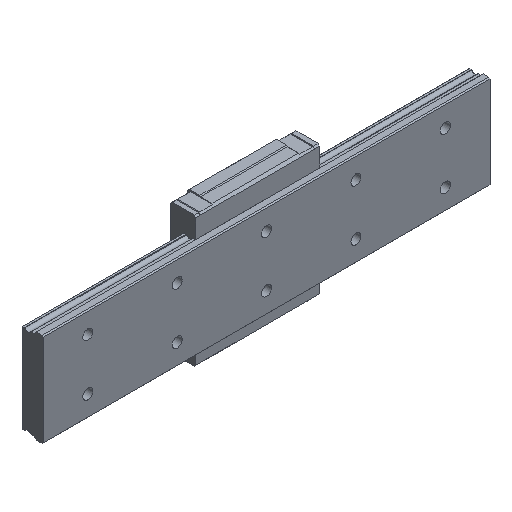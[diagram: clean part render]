
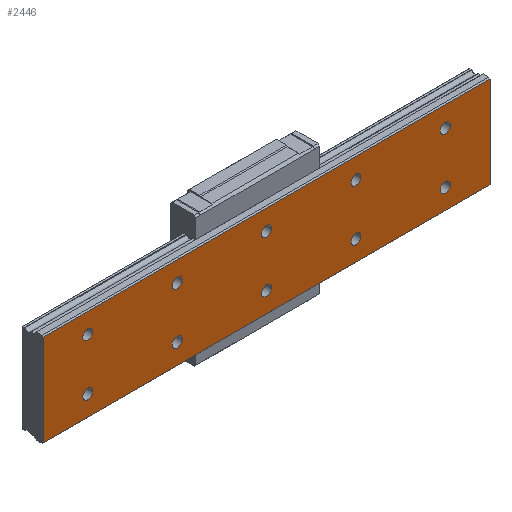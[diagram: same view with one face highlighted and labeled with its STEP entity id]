
A CAD part, isometric view. The second image highlights one B-rep face of the part: STEP entity #2446.
In plain terms, the highlighted planar face has unit normal (0, -1, 0).
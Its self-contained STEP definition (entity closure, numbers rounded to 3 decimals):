
#92=CIRCLE('',#2631,2.25);
#93=CIRCLE('',#2632,2.25);
#94=CIRCLE('',#2633,2.25);
#95=CIRCLE('',#2634,2.25);
#96=CIRCLE('',#2635,2.25);
#97=CIRCLE('',#2636,2.25);
#98=CIRCLE('',#2637,2.25);
#99=CIRCLE('',#2638,2.25);
#100=CIRCLE('',#2639,2.25);
#101=CIRCLE('',#2640,2.25);
#194=ORIENTED_EDGE('',*,*,#856,.F.);
#195=ORIENTED_EDGE('',*,*,#857,.F.);
#196=ORIENTED_EDGE('',*,*,#858,.F.);
#197=ORIENTED_EDGE('',*,*,#859,.F.);
#198=ORIENTED_EDGE('',*,*,#860,.F.);
#199=ORIENTED_EDGE('',*,*,#861,.F.);
#200=ORIENTED_EDGE('',*,*,#862,.F.);
#201=ORIENTED_EDGE('',*,*,#863,.F.);
#202=ORIENTED_EDGE('',*,*,#864,.F.);
#203=ORIENTED_EDGE('',*,*,#865,.F.);
#204=ORIENTED_EDGE('',*,*,#866,.T.);
#205=ORIENTED_EDGE('',*,*,#867,.F.);
#206=ORIENTED_EDGE('',*,*,#868,.F.);
#207=ORIENTED_EDGE('',*,*,#854,.T.);
#854=EDGE_CURVE('',#1185,#1184,#1432,.T.);
#856=EDGE_CURVE('',#1186,#1186,#92,.T.);
#857=EDGE_CURVE('',#1187,#1187,#93,.T.);
#858=EDGE_CURVE('',#1188,#1188,#94,.T.);
#859=EDGE_CURVE('',#1189,#1189,#95,.T.);
#860=EDGE_CURVE('',#1190,#1190,#96,.T.);
#861=EDGE_CURVE('',#1191,#1191,#97,.T.);
#862=EDGE_CURVE('',#1192,#1192,#98,.T.);
#863=EDGE_CURVE('',#1193,#1193,#99,.T.);
#864=EDGE_CURVE('',#1194,#1194,#100,.T.);
#865=EDGE_CURVE('',#1195,#1195,#101,.T.);
#866=EDGE_CURVE('',#1184,#1196,#1434,.T.);
#867=EDGE_CURVE('',#1197,#1196,#1435,.T.);
#868=EDGE_CURVE('',#1185,#1197,#1436,.T.);
#1184=VERTEX_POINT('',#3609);
#1185=VERTEX_POINT('',#3611);
#1186=VERTEX_POINT('',#3615);
#1187=VERTEX_POINT('',#3617);
#1188=VERTEX_POINT('',#3619);
#1189=VERTEX_POINT('',#3621);
#1190=VERTEX_POINT('',#3623);
#1191=VERTEX_POINT('',#3625);
#1192=VERTEX_POINT('',#3627);
#1193=VERTEX_POINT('',#3629);
#1194=VERTEX_POINT('',#3631);
#1195=VERTEX_POINT('',#3633);
#1196=VERTEX_POINT('',#3635);
#1197=VERTEX_POINT('',#3637);
#1432=LINE('',#3610,#1674);
#1434=LINE('',#3634,#1676);
#1435=LINE('',#3636,#1677);
#1436=LINE('',#3638,#1678);
#1674=VECTOR('',#2883,1000.);
#1676=VECTOR('',#2907,1000.);
#1677=VECTOR('',#2908,1000.);
#1678=VECTOR('',#2909,1000.);
#1911=EDGE_LOOP('',(#194));
#1912=EDGE_LOOP('',(#195));
#1913=EDGE_LOOP('',(#196));
#1914=EDGE_LOOP('',(#197));
#1915=EDGE_LOOP('',(#198));
#1916=EDGE_LOOP('',(#199));
#1917=EDGE_LOOP('',(#200));
#1918=EDGE_LOOP('',(#201));
#1919=EDGE_LOOP('',(#202));
#1920=EDGE_LOOP('',(#203));
#1921=EDGE_LOOP('',(#204,#205,#206,#207));
#2129=FACE_BOUND('',#1911,.T.);
#2130=FACE_BOUND('',#1912,.T.);
#2131=FACE_BOUND('',#1913,.T.);
#2132=FACE_BOUND('',#1914,.T.);
#2133=FACE_BOUND('',#1915,.T.);
#2134=FACE_BOUND('',#1916,.T.);
#2135=FACE_BOUND('',#1917,.T.);
#2136=FACE_BOUND('',#1918,.T.);
#2137=FACE_BOUND('',#1919,.T.);
#2138=FACE_BOUND('',#1920,.T.);
#2139=FACE_BOUND('',#1921,.T.);
#2351=PLANE('',#2630);
#2446=ADVANCED_FACE('',(#2129,#2130,#2131,#2132,#2133,#2134,#2135,#2136,
#2137,#2138,#2139),#2351,.F.);
#2630=AXIS2_PLACEMENT_3D('',#3613,#2885,#2886);
#2631=AXIS2_PLACEMENT_3D('',#3614,#2887,#2888);
#2632=AXIS2_PLACEMENT_3D('',#3616,#2889,#2890);
#2633=AXIS2_PLACEMENT_3D('',#3618,#2891,#2892);
#2634=AXIS2_PLACEMENT_3D('',#3620,#2893,#2894);
#2635=AXIS2_PLACEMENT_3D('',#3622,#2895,#2896);
#2636=AXIS2_PLACEMENT_3D('',#3624,#2897,#2898);
#2637=AXIS2_PLACEMENT_3D('',#3626,#2899,#2900);
#2638=AXIS2_PLACEMENT_3D('',#3628,#2901,#2902);
#2639=AXIS2_PLACEMENT_3D('',#3630,#2903,#2904);
#2640=AXIS2_PLACEMENT_3D('',#3632,#2905,#2906);
#2883=DIRECTION('',(-1.,0.,0.));
#2885=DIRECTION('',(0.,1.,0.));
#2886=DIRECTION('',(0.,0.,1.));
#2887=DIRECTION('',(0.,-1.,0.));
#2888=DIRECTION('',(0.,0.,-1.));
#2889=DIRECTION('',(0.,-1.,0.));
#2890=DIRECTION('',(0.,0.,-1.));
#2891=DIRECTION('',(0.,-1.,0.));
#2892=DIRECTION('',(0.,0.,-1.));
#2893=DIRECTION('',(0.,-1.,0.));
#2894=DIRECTION('',(0.,0.,-1.));
#2895=DIRECTION('',(0.,-1.,0.));
#2896=DIRECTION('',(0.,0.,-1.));
#2897=DIRECTION('',(0.,-1.,0.));
#2898=DIRECTION('',(0.,0.,-1.));
#2899=DIRECTION('',(0.,-1.,0.));
#2900=DIRECTION('',(0.,0.,-1.));
#2901=DIRECTION('',(0.,-1.,0.));
#2902=DIRECTION('',(0.,0.,-1.));
#2903=DIRECTION('',(0.,-1.,0.));
#2904=DIRECTION('',(0.,0.,-1.));
#2905=DIRECTION('',(0.,-1.,0.));
#2906=DIRECTION('',(0.,0.,-1.));
#2907=DIRECTION('',(0.,0.,-1.));
#2908=DIRECTION('',(-1.,0.,0.));
#2909=DIRECTION('',(0.,0.,-1.));
#3609=CARTESIAN_POINT('',(-20.,0.,20.5));
#3610=CARTESIAN_POINT('',(180.,0.,20.5));
#3611=CARTESIAN_POINT('',(180.,0.,20.5));
#3613=CARTESIAN_POINT('',(180.,0.,20.5));
#3614=CARTESIAN_POINT('',(0.,0.,11.5));
#3615=CARTESIAN_POINT('',(0.,0.,9.25));
#3616=CARTESIAN_POINT('',(160.,0.,-11.5));
#3617=CARTESIAN_POINT('',(160.,0.,-13.75));
#3618=CARTESIAN_POINT('',(120.,0.,-11.5));
#3619=CARTESIAN_POINT('',(120.,0.,-13.75));
#3620=CARTESIAN_POINT('',(80.,0.,-11.5));
#3621=CARTESIAN_POINT('',(80.,0.,-13.75));
#3622=CARTESIAN_POINT('',(40.,0.,11.5));
#3623=CARTESIAN_POINT('',(40.,0.,9.25));
#3624=CARTESIAN_POINT('',(80.,0.,11.5));
#3625=CARTESIAN_POINT('',(80.,0.,9.25));
#3626=CARTESIAN_POINT('',(120.,0.,11.5));
#3627=CARTESIAN_POINT('',(120.,0.,9.25));
#3628=CARTESIAN_POINT('',(160.,0.,11.5));
#3629=CARTESIAN_POINT('',(160.,0.,9.25));
#3630=CARTESIAN_POINT('',(40.,0.,-11.5));
#3631=CARTESIAN_POINT('',(40.,0.,-13.75));
#3632=CARTESIAN_POINT('',(0.,0.,-11.5));
#3633=CARTESIAN_POINT('',(0.,0.,-13.75));
#3634=CARTESIAN_POINT('',(-20.,0.,20.5));
#3635=CARTESIAN_POINT('',(-20.,0.,-20.5));
#3636=CARTESIAN_POINT('',(180.,0.,-20.5));
#3637=CARTESIAN_POINT('',(180.,0.,-20.5));
#3638=CARTESIAN_POINT('',(180.,0.,20.5));
